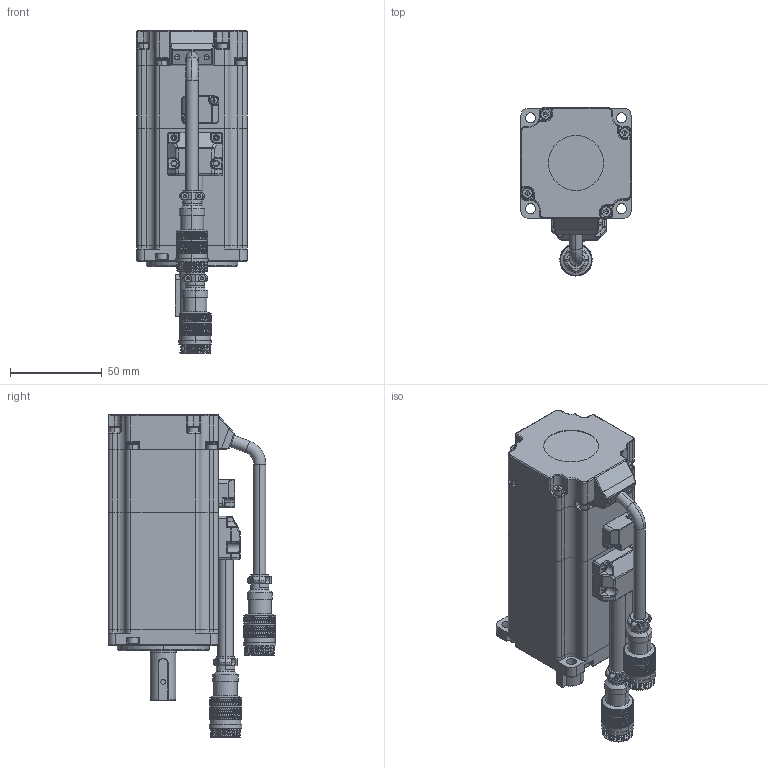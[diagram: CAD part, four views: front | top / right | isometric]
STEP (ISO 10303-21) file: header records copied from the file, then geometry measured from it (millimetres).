
FILE_DESCRIPTION (( 'STEP AP214' ), '1' );
FILE_NAME ('V7E-L06A-R4030-¡õ2SF.STEP', '2022-03-22T07:19:46', ( '' ), ( '' ), 'SwSTEP 2.0', 'SolidWorks 2014', '' );
FILE_SCHEMA (( 'AUTOMOTIVE_DESIGN' ));
Length unit declared in the file: millimetre
Products named in the file (29): 坋趼苤攫芛ISO 7045 - M2 x 5; 60#晤鎢ん欶躇猾菜; GX16-9K; 价陬綴傷裔_60價釱; 15-32-9粣創; 60新编码器后罩-甩线式-201215; 40#价陬裔躇猾菜; V7E-L06A-R4030-¡õ2SF; 普通型 平键   C 5x5x22.5 带M3起键螺钉孔; Áã¼þ3^V7E-L06A-R4030-¡õ2SF; 囀鞠褒 ISO 4762 M4 x 12 --- 12N; 60_400W儂褲-201126; GX16-4K; 400W-隅赽郪璃-201126; 雄薯盄揤盄裔; ヶ傷裔_60價釱-201126; Áã¼þ2^V7E-L06A-R4030-¡õ2SF; 10-26-8粣創; す菜 M3; 坋趼苤攫芛ISO 7045 - M2 x 5201611; 囀鞠褒 _ISO 4762 M3 x 40; 囀鞠褒 ISO 4762 M3 x 8 --- 8N; 60#价陬粣-38沺郋; o型圈--内径53.31直径1.7; 陓瘍盄躇猾裔; 粟菜 M3; 囀鞠褒 ISO 4762 M3 x 12 --- 12N; 40#价陬堤盄揤盄裔; 蚐猾 D00B999YF2-TC 15-22-5
Assembly tree (39 placements, depth 3):
  V7E-L06A-R4030-¡õ2SF
    400W-隅赽郪璃-201126
      ヶ傷裔_60價釱-201126
      60_400W儂褲-201126
    价陬綴傷裔_60價釱
    10-26-8粣創
    15-32-9粣創
    o型圈--内径53.31直径1.7  x2
    60#晤鎢ん欶躇猾菜
    蚐猾 D00B999YF2-TC 15-22-5
    40#价陬堤盄揤盄裔
    40#价陬裔躇猾菜
    囀鞠褒 ISO 4762 M4 x 12 --- 12N
    囀鞠褒 ISO 4762 M3 x 8 --- 8N
    粟菜 M3
    す菜 M3
    囀鞠褒 ISO 4762 M3 x 12 --- 12N  x8
    坋趼苤攫芛ISO 7045 - M2 x 5201611
    坋趼苤攫芛ISO 7045 - M2 x 5
    囀鞠褒 _ISO 4762 M3 x 40  x4
    普通型 平键   C 5x5x22.5 带M3起键螺钉孔
    60#价陬粣-38沺郋
    雄薯盄揤盄裔
    60新编码器后罩-甩线式-201215
    陓瘍盄躇猾裔
    Áã¼þ2^V7E-L06A-R4030-¡õ2SF
    Áã¼þ3^V7E-L06A-R4030-¡õ2SF
    GX16-4K
    GX16-9K
Bounding box: 60 x 91.45 x 175.65 mm (x, y, z)
Volume: 190955.9 mm3; surface area: 124392.6 mm2
Topology: 40 solids, 40 shells, 6714 faces, 16707 edges, 10750 vertices
Faces by surface type: plane 4043, cylinder 1873, torus 296, cone 219, bspline 195, sphere 88
Entity records: 215558 total; most frequent: CARTESIAN_POINT 63259, ORIENTED_EDGE 31794, DIRECTION 25477, EDGE_CURVE 15897, VERTEX_POINT 10335, AXIS2_PLACEMENT_3D 10019, EDGE_LOOP 7458, ADVANCED_FACE 6446
